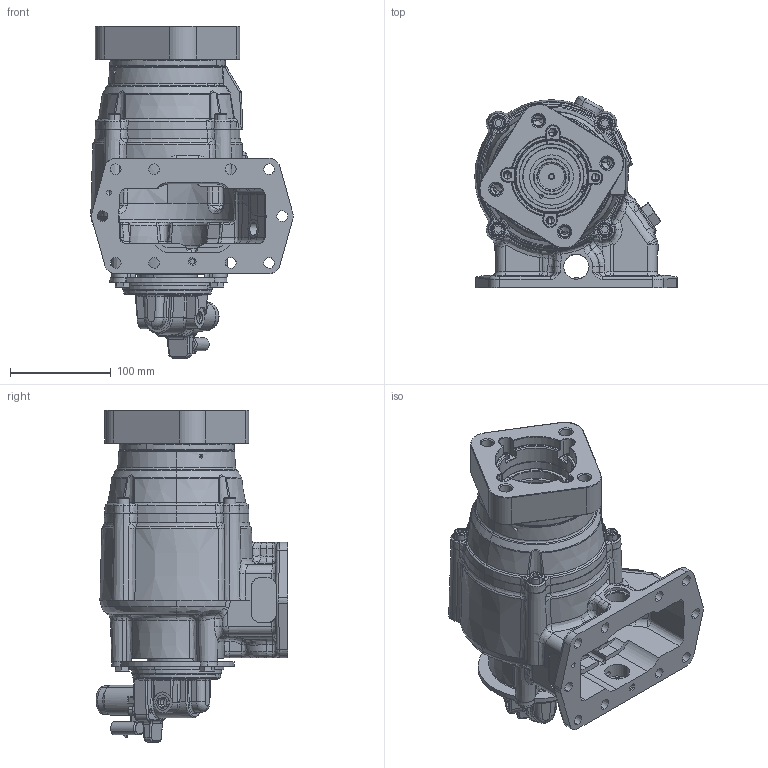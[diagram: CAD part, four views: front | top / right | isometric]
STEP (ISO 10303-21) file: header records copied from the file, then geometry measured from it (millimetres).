
FILE_DESCRIPTION (( 'STEP AP203' ), '1' );
FILE_NAME ('A20-A10XX-HX3IIPX.STEP', '2023-03-28T14:11:45', ( '' ), ( '' ), 'SwSTEP 2.0', 'SolidWorks 2021', '' );
FILE_SCHEMA (( 'CONFIG_CONTROL_DESIGN' ));
Length unit declared in the file: inch
Products named in the file (14): DropInSolenoidRearCoverAssembly.STEP; 15T65391DB3.STEP; A20-A10XX-HX3IIPX; 25T35999TMP.STEP; SC-301_25T37702.STEP; 14T65918_DIN_Flange.step.STEP; 12T36701.STEP; 47T6123TMP_Solenoid.STEP; 15T43431_FOR CLAMPS.STEP; 01T43433_3Arrangement.STEP; 19T62950.STEP; 19T36588_19T36588.STEP; 35T40860.STEP; 47T6123_15T43431_DUST CAP INSTALLED.STEP
Assembly tree (17 placements, depth 4):
  A20-A10XX-HX3IIPX
    DropInSolenoidRearCoverAssembly.STEP
      47T6123_15T43431_DUST CAP INSTALLED.STEP
        15T43431_FOR CLAMPS.STEP
        19T62950.STEP  x2
        12T36701.STEP
        SC-301_25T37702.STEP
      47T6123TMP_Solenoid.STEP
    01T43433_3Arrangement.STEP
    15T65391DB3.STEP
    25T35999TMP.STEP
    14T65918_DIN_Flange.step.STEP
    19T36588_19T36588.STEP  x4
    35T40860.STEP
Bounding box: 200.59 x 190.21 x 329.07 mm (x, y, z)
Volume: 884654.2 mm3; surface area: 458148.3 mm2
Topology: 22 solids, 35 shells, 3302 faces, 8139 edges, 4914 vertices
Faces by surface type: plane 949, bspline 898, cylinder 772, cone 380, torus 255, sphere 48
Entity records: 170161 total; most frequent: CARTESIAN_POINT 103780, ORIENTED_EDGE 15582, DIRECTION 10410, EDGE_CURVE 7800, VERTEX_POINT 4793, AXIS2_PLACEMENT_3D 4331, B_SPLINE_CURVE_WITH_KNOTS 3581, EDGE_LOOP 3490
